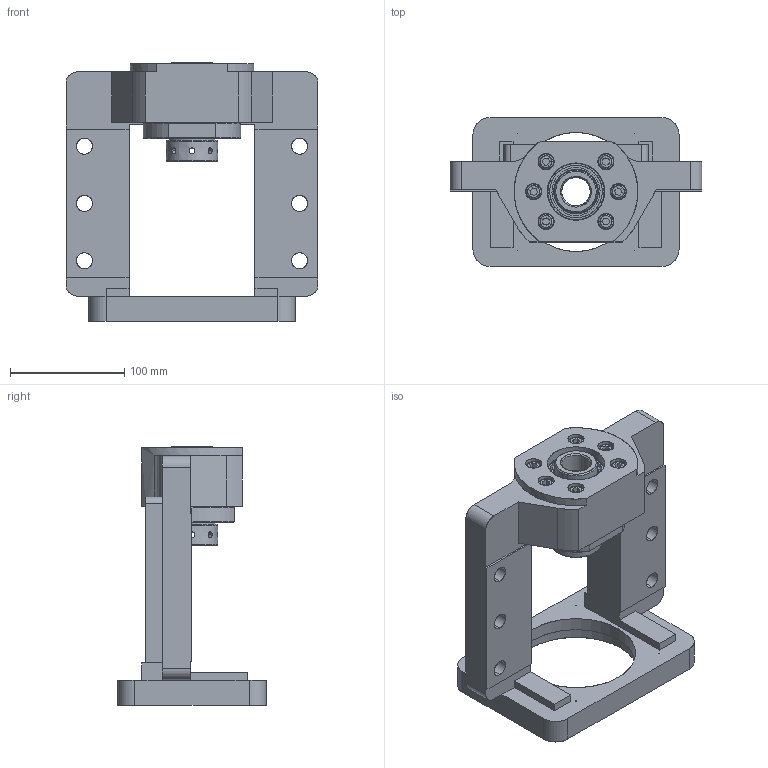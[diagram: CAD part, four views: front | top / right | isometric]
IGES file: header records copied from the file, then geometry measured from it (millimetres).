
Start section: SolidWorks IGES file using analytic representation for surfaces
Global section: file name: C:\Users\044\Desktop\快捷\MBCS25L-G.IGS,1; native system: 5HSolidWorks 2018; preprocessor: SolidWorks 2018; author: 044; date: 241011.091304; units: millimetre
Bounding box: 220 x 130 x 226 mm (x, y, z)
Surface area: 195271 mm2 (no closed solid volume)
Topology: 0 solids, 0 shells, 342 faces, 6052 edges, 6044 vertices
Faces by surface type: revolution 195, bspline 147
